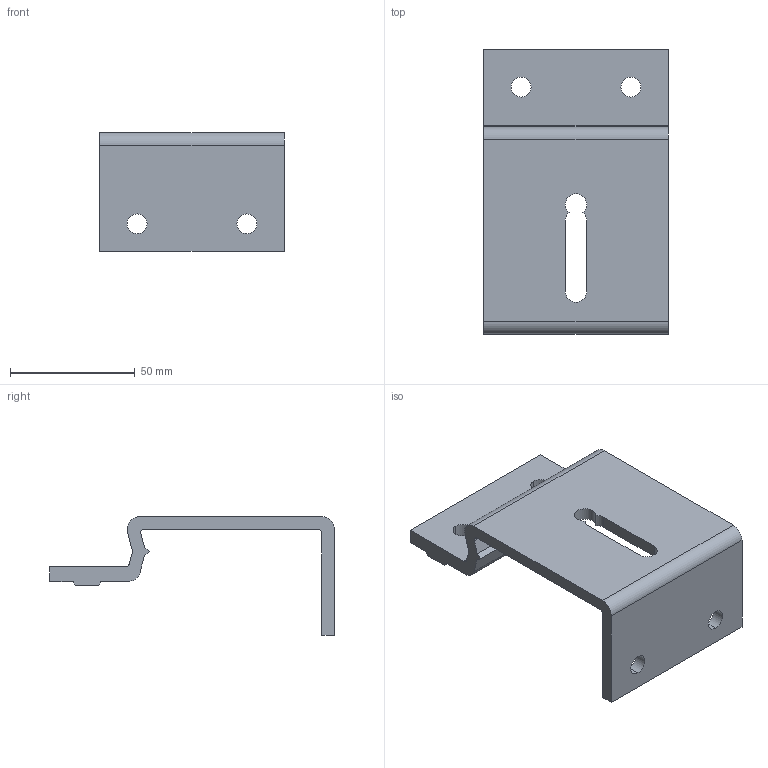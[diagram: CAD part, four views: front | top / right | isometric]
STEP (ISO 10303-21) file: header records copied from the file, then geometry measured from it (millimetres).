
FILE_DESCRIPTION (( 'STEP AP214' ), '1' );
FILE_NAME ('FABER - FAHBS 74A.STEP', '2017-04-05T12:15:37', ( '' ), ( '' ), 'SwSTEP 2.0', 'SolidWorks 2016', '' );
FILE_SCHEMA (( 'AUTOMOTIVE_DESIGN' ));
Length unit declared in the file: millimetre
Products named in the file (1): FABER - FAHBS 74A
Bounding box: 74 x 114 x 47.5 mm (x, y, z)
Volume: 65600 mm3; surface area: 28679.9 mm2
Topology: 1 solids, 1 shells, 43 faces, 123 edges, 82 vertices
Faces by surface type: plane 24, cylinder 19
Entity records: 1469 total; most frequent: CARTESIAN_POINT 249, DIRECTION 249, ORIENTED_EDGE 246, EDGE_CURVE 123, VECTOR 85, LINE 85, AXIS2_PLACEMENT_3D 82, VERTEX_POINT 82
